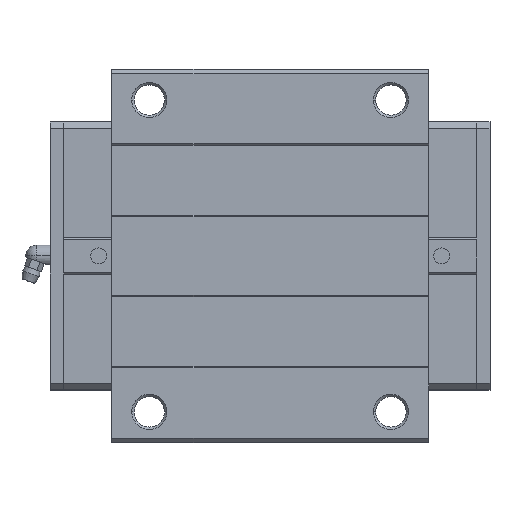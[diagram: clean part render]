
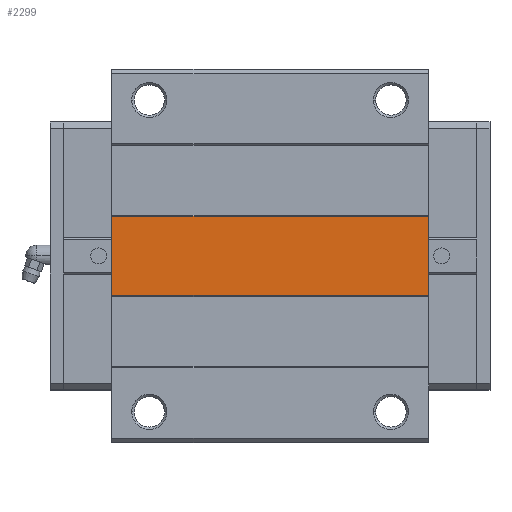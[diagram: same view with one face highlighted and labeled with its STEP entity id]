
A CAD part, top view. The second image highlights one B-rep face of the part: STEP entity #2299.
In plain terms, the highlighted planar face has unit normal (0, 0, 1).
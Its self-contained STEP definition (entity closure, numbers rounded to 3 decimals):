
#2238=CARTESIAN_POINT('POINT148',(172.2,-18.,
   75.));
#2239=VERTEX_POINT('VERTEX148',#2238);
#2246=CARTESIAN_POINT('POINT149',(28.,-18.,
   75.));
#2247=VERTEX_POINT('VERTEX149',#2246);
#2248=CARTESIAN_POINT('POS219',(28.,-18.,
   75.));
#2249=DIRECTION('DIR318',(1.,0.,0.));
#2250=VECTOR('VEC120',#2249,1.);
#2251=LINE('STRAIGHT120',#2248,#2250);
#2252=EDGE_CURVE('EDGE218',#2247,#2239,#2251,.T.);
#2269=CARTESIAN_POINT('POINT150',(172.2,18.,75.));
#2270=VERTEX_POINT('VERTEX150',#2269);
#2271=CARTESIAN_POINT('POS222',(172.2,0.,75.));
#2272=DIRECTION('DIR322',(0.,1.,0.));
#2273=VECTOR('VEC122',#2272,1.);
#2274=LINE('STRAIGHT122',#2271,#2273);
#2275=EDGE_CURVE('EDGE220',#2239,#2270,#2274,.T.);
#2276=ORIENTED_EDGE('COEDGE376',*,*,#2275,.T.);
#2277=CARTESIAN_POINT('POINT151',(28.,18.,75.));
#2278=VERTEX_POINT('VERTEX151',#2277);
#2279=CARTESIAN_POINT('POS223',(28.,18.,75.));
#2280=DIRECTION('DIR323',(1.,0.,0.));
#2281=VECTOR('VEC123',#2280,1.);
#2282=LINE('STRAIGHT123',#2279,#2281);
#2283=EDGE_CURVE('EDGE221',#2278,#2270,#2282,.T.);
#2284=ORIENTED_EDGE('COEDGE377',*,*,#2283,.F.);
#2285=CARTESIAN_POINT('POS224',(28.,0.,75.));
#2286=DIRECTION('DIR324',(0.,1.,0.));
#2287=VECTOR('VEC124',#2286,1.);
#2288=LINE('STRAIGHT124',#2285,#2287);
#2289=EDGE_CURVE('EDGE222',#2247,#2278,#2288,.T.);
#2290=ORIENTED_EDGE('COEDGE378',*,*,#2289,.F.);
#2291=ORIENTED_EDGE('COEDGE379',*,*,#2252,.T.);
#2292=EDGE_LOOP('NONE',(#2276,#2284,#2290,#2291));
#2293=FACE_BOUND('LOOP1',#2292,.T.);
#2294=CARTESIAN_POINT('POS225',(28.,0.,75.));
#2295=DIRECTION('DIR325',(0.,0.,1.));
#2296=DIRECTION('DIR326',(1.,0.,0.));
#2297=AXIS2_PLACEMENT_3D('AXIS101',#2294,#2295,#2296);
#2298=PLANE('PLANE27',#2297);
#2299=ADVANCED_FACE('FACE73',(#2293),#2298,.T.);
